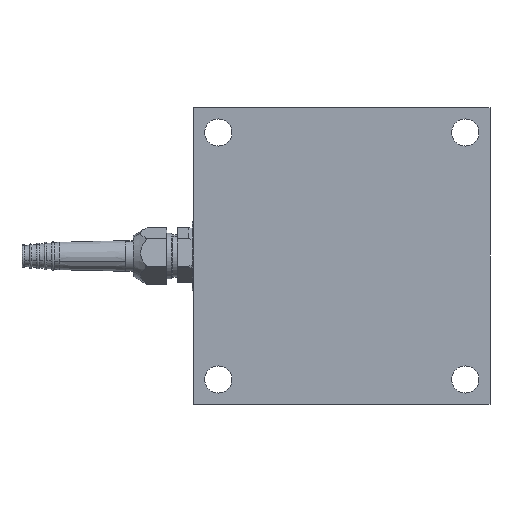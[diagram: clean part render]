
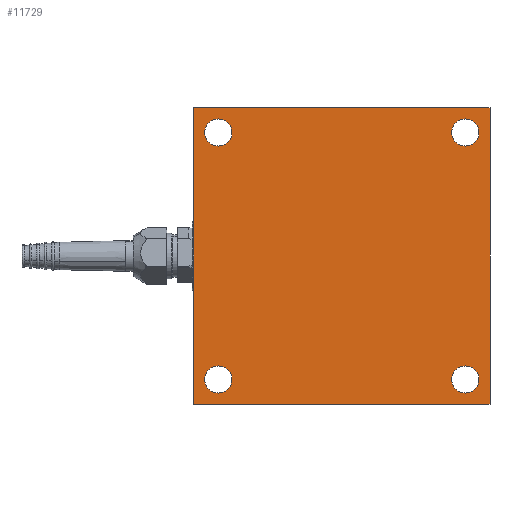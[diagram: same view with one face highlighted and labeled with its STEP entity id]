
A CAD part, front view. The second image highlights one B-rep face of the part: STEP entity #11729.
In plain terms, the highlighted planar face has unit normal (0, -1, 0).
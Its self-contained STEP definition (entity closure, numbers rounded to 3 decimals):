
#42 = CARTESIAN_POINT ( 'NONE',  ( -50., 0., -50. ) ) ;
#72 = DIRECTION ( 'NONE',  ( -1., 0., 0. ) ) ;
#647 = ORIENTED_EDGE ( 'NONE', *, *, #7305, .F. ) ;
#717 = VERTEX_POINT ( 'NONE', #8766 ) ;
#721 = VERTEX_POINT ( 'NONE', #4373 ) ;
#864 = EDGE_CURVE ( 'NONE', #10365, #7283, #5371, .T. ) ;
#993 = DIRECTION ( 'NONE',  ( 0., 0., 1. ) ) ;
#1063 = CARTESIAN_POINT ( 'NONE',  ( -50., 0., -55.5 ) ) ;
#1127 = FACE_BOUND ( 'NONE', #9523, .T. ) ;
#1171 = EDGE_LOOP ( 'NONE', ( #8120, #6545 ) ) ;
#1397 = CARTESIAN_POINT ( 'NONE',  ( 50., 0., -55.5 ) ) ;
#1769 = EDGE_CURVE ( 'NONE', #9064, #9333, #5595, .T. ) ;
#1789 = ORIENTED_EDGE ( 'NONE', *, *, #7573, .T. ) ;
#1951 = EDGE_CURVE ( 'NONE', #3094, #11195, #3327, .T. ) ;
#1979 = CARTESIAN_POINT ( 'NONE',  ( -60., 0., 60. ) ) ;
#2062 = EDGE_CURVE ( 'NONE', #721, #9064, #8317, .T. ) ;
#2137 = DIRECTION ( 'NONE',  ( 0., 0., -1. ) ) ;
#2153 = AXIS2_PLACEMENT_3D ( 'NONE', #2741, #5867, #7139 ) ;
#2235 = EDGE_CURVE ( 'NONE', #11195, #3094, #7475, .T. ) ;
#2492 = EDGE_LOOP ( 'NONE', ( #13923, #11921 ) ) ;
#2532 = VERTEX_POINT ( 'NONE', #13135 ) ;
#2589 = VERTEX_POINT ( 'NONE', #1063 ) ;
#2741 = CARTESIAN_POINT ( 'NONE',  ( -50., 0., 50. ) ) ;
#2778 = VECTOR ( 'NONE', #11931, 1000. ) ;
#2943 = EDGE_CURVE ( 'NONE', #7283, #10365, #4728, .T. ) ;
#3094 = VERTEX_POINT ( 'NONE', #1397 ) ;
#3107 = AXIS2_PLACEMENT_3D ( 'NONE', #12575, #6092, #5951 ) ;
#3124 = CARTESIAN_POINT ( 'NONE',  ( -60., 0., -60. ) ) ;
#3327 = CIRCLE ( 'NONE', #3107, 5.5 ) ;
#3346 = DIRECTION ( 'NONE',  ( 0., -1., 0. ) ) ;
#3369 = DIRECTION ( 'NONE',  ( 0., 1., 0. ) ) ;
#3593 = FACE_BOUND ( 'NONE', #1171, .T. ) ;
#4361 = DIRECTION ( 'NONE',  ( 0., 1., 0. ) ) ;
#4373 = CARTESIAN_POINT ( 'NONE',  ( -60., 0., 60. ) ) ;
#4724 = DIRECTION ( 'NONE',  ( 0., 1., 0. ) ) ;
#4728 = CIRCLE ( 'NONE', #12091, 5.5 ) ;
#4820 = EDGE_LOOP ( 'NONE', ( #7640, #6204 ) ) ;
#4857 = DIRECTION ( 'NONE',  ( 0., 0., -1. ) ) ;
#4881 = CARTESIAN_POINT ( 'NONE',  ( 0., 0., 0. ) ) ;
#5005 = EDGE_CURVE ( 'NONE', #2532, #7839, #6799, .T. ) ;
#5220 = DIRECTION ( 'NONE',  ( 1., 0., 0. ) ) ;
#5371 = CIRCLE ( 'NONE', #2153, 5.5 ) ;
#5438 = DIRECTION ( 'NONE',  ( 0., 0., 1. ) ) ;
#5595 = LINE ( 'NONE', #5737, #11389 ) ;
#5633 = AXIS2_PLACEMENT_3D ( 'NONE', #7682, #3346, #5438 ) ;
#5659 = CIRCLE ( 'NONE', #13735, 5.5 ) ;
#5737 = CARTESIAN_POINT ( 'NONE',  ( 60., 0., 60. ) ) ;
#5747 = EDGE_LOOP ( 'NONE', ( #647, #8242, #7199, #13477 ) ) ;
#5867 = DIRECTION ( 'NONE',  ( 0., -1., 0. ) ) ;
#5951 = DIRECTION ( 'NONE',  ( 0., 0., 1. ) ) ;
#6036 = DIRECTION ( 'NONE',  ( 0., -1., 0. ) ) ;
#6092 = DIRECTION ( 'NONE',  ( 0., -1., 0. ) ) ;
#6102 = EDGE_CURVE ( 'NONE', #2589, #7189, #5659, .T. ) ;
#6109 = AXIS2_PLACEMENT_3D ( 'NONE', #13543, #4724, #4857 ) ;
#6204 = ORIENTED_EDGE ( 'NONE', *, *, #5005, .T. ) ;
#6231 = AXIS2_PLACEMENT_3D ( 'NONE', #42, #3369, #993 ) ;
#6473 = CIRCLE ( 'NONE', #6231, 5.5 ) ;
#6545 = ORIENTED_EDGE ( 'NONE', *, *, #1951, .F. ) ;
#6799 = CIRCLE ( 'NONE', #6109, 5.5 ) ;
#6939 = CARTESIAN_POINT ( 'NONE',  ( -50., 0., 55.5 ) ) ;
#7139 = DIRECTION ( 'NONE',  ( 0., 0., -1. ) ) ;
#7189 = VERTEX_POINT ( 'NONE', #8321 ) ;
#7199 = ORIENTED_EDGE ( 'NONE', *, *, #1769, .F. ) ;
#7283 = VERTEX_POINT ( 'NONE', #14276 ) ;
#7305 = EDGE_CURVE ( 'NONE', #717, #721, #13250, .T. ) ;
#7475 = CIRCLE ( 'NONE', #5633, 5.5 ) ;
#7573 = EDGE_CURVE ( 'NONE', #7189, #2589, #6473, .T. ) ;
#7598 = CARTESIAN_POINT ( 'NONE',  ( 50., 0., 50. ) ) ;
#7616 = AXIS2_PLACEMENT_3D ( 'NONE', #7598, #4361, #9893 ) ;
#7640 = ORIENTED_EDGE ( 'NONE', *, *, #12608, .T. ) ;
#7682 = CARTESIAN_POINT ( 'NONE',  ( 50., 0., -50. ) ) ;
#7839 = VERTEX_POINT ( 'NONE', #10006 ) ;
#8120 = ORIENTED_EDGE ( 'NONE', *, *, #2235, .F. ) ;
#8221 = DIRECTION ( 'NONE',  ( 0., 1., 0. ) ) ;
#8242 = ORIENTED_EDGE ( 'NONE', *, *, #13026, .F. ) ;
#8317 = LINE ( 'NONE', #12951, #13013 ) ;
#8321 = CARTESIAN_POINT ( 'NONE',  ( -50., 0., -44.5 ) ) ;
#8766 = CARTESIAN_POINT ( 'NONE',  ( -60., 0., -60. ) ) ;
#9064 = VERTEX_POINT ( 'NONE', #12287 ) ;
#9288 = AXIS2_PLACEMENT_3D ( 'NONE', #4881, #6036, #9346 ) ;
#9333 = VERTEX_POINT ( 'NONE', #9390 ) ;
#9346 = DIRECTION ( 'NONE',  ( 0., 0., -1. ) ) ;
#9390 = CARTESIAN_POINT ( 'NONE',  ( 60., 0., -60. ) ) ;
#9523 = EDGE_LOOP ( 'NONE', ( #1789, #13380 ) ) ;
#9665 = LINE ( 'NONE', #3124, #10136 ) ;
#9893 = DIRECTION ( 'NONE',  ( 0., 0., -1. ) ) ;
#10006 = CARTESIAN_POINT ( 'NONE',  ( 50., 0., 55.5 ) ) ;
#10136 = VECTOR ( 'NONE', #72, 1000. ) ;
#10209 = FACE_BOUND ( 'NONE', #4820, .T. ) ;
#10360 = CARTESIAN_POINT ( 'NONE',  ( -50., 0., -50. ) ) ;
#10365 = VERTEX_POINT ( 'NONE', #6939 ) ;
#10713 = DIRECTION ( 'NONE',  ( 0., -1., 0. ) ) ;
#10837 = CIRCLE ( 'NONE', #7616, 5.5 ) ;
#11015 = FACE_BOUND ( 'NONE', #2492, .T. ) ;
#11130 = CARTESIAN_POINT ( 'NONE',  ( 50., 0., -44.5 ) ) ;
#11195 = VERTEX_POINT ( 'NONE', #11130 ) ;
#11389 = VECTOR ( 'NONE', #2137, 1000. ) ;
#11729 = ADVANCED_FACE ( 'NONE', ( #11015, #1127, #13561, #10209, #3593 ), #13703, .T. ) ;
#11921 = ORIENTED_EDGE ( 'NONE', *, *, #2943, .F. ) ;
#11931 = DIRECTION ( 'NONE',  ( 0., 0., 1. ) ) ;
#11947 = DIRECTION ( 'NONE',  ( 0., 0., -1. ) ) ;
#12091 = AXIS2_PLACEMENT_3D ( 'NONE', #14004, #10713, #11947 ) ;
#12287 = CARTESIAN_POINT ( 'NONE',  ( 60., 0., 60. ) ) ;
#12469 = DIRECTION ( 'NONE',  ( 0., 0., 1. ) ) ;
#12575 = CARTESIAN_POINT ( 'NONE',  ( 50., 0., -50. ) ) ;
#12608 = EDGE_CURVE ( 'NONE', #7839, #2532, #10837, .T. ) ;
#12951 = CARTESIAN_POINT ( 'NONE',  ( -60., 0., 60. ) ) ;
#13013 = VECTOR ( 'NONE', #5220, 1000. ) ;
#13026 = EDGE_CURVE ( 'NONE', #9333, #717, #9665, .T. ) ;
#13135 = CARTESIAN_POINT ( 'NONE',  ( 50., 0., 44.5 ) ) ;
#13250 = LINE ( 'NONE', #1979, #2778 ) ;
#13380 = ORIENTED_EDGE ( 'NONE', *, *, #6102, .T. ) ;
#13477 = ORIENTED_EDGE ( 'NONE', *, *, #2062, .F. ) ;
#13543 = CARTESIAN_POINT ( 'NONE',  ( 50., 0., 50. ) ) ;
#13561 = FACE_OUTER_BOUND ( 'NONE', #5747, .T. ) ;
#13703 = PLANE ( 'NONE',  #9288 ) ;
#13735 = AXIS2_PLACEMENT_3D ( 'NONE', #10360, #8221, #12469 ) ;
#13923 = ORIENTED_EDGE ( 'NONE', *, *, #864, .F. ) ;
#14004 = CARTESIAN_POINT ( 'NONE',  ( -50., 0., 50. ) ) ;
#14276 = CARTESIAN_POINT ( 'NONE',  ( -50., 0., 44.5 ) ) ;
